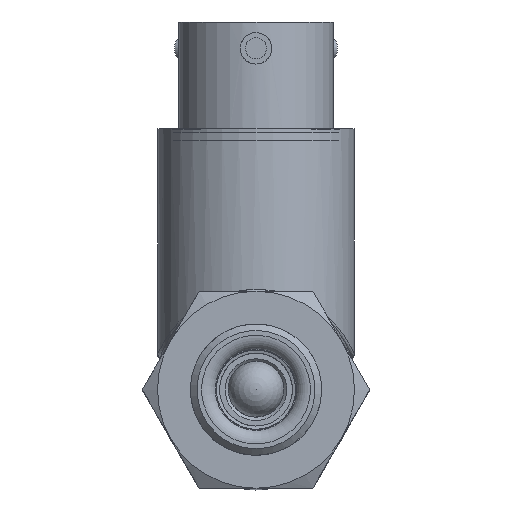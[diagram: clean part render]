
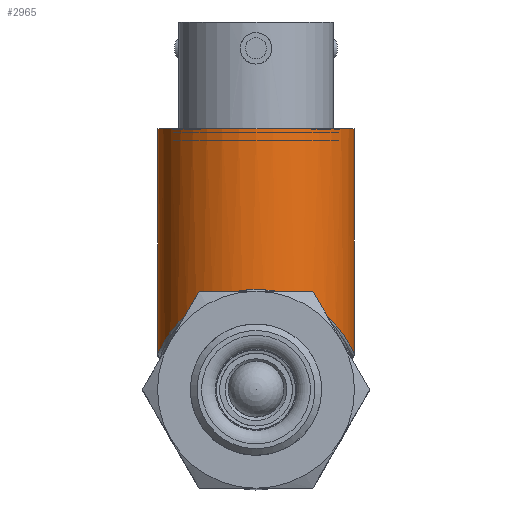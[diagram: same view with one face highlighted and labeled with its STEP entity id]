
A CAD part, top view. The second image highlights one B-rep face of the part: STEP entity #2965.
In plain terms, the highlighted cylindrical face has radius 9.525 mm (diameter 19.05 mm), a full revolution.
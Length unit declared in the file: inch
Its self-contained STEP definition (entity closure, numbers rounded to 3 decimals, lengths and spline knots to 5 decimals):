
#70=B_SPLINE_CURVE_WITH_KNOTS('',3,(#6634,#6635,#6636,#6637,#6638,#6639,
#6640,#6641,#6642,#6643,#6644,#6645,#6646,#6647,#6648,#6649,#6650,#6651,
#6652,#6653,#6654,#6655,#6656,#6657,#6658,#6659,#6660,#6661,#6662,#6663,
#6664),.UNSPECIFIED.,.F.,.F.,(4,1,1,1,1,1,1,1,1,1,1,1,1,1,1,1,1,1,1,1,1,
1,1,1,1,1,1,1,4),(-9.63701,-9.40756,-9.17811,
-8.7192,-8.41326,-8.26029,-8.10733,
-8.03084,-7.95436,-7.80139,-7.49545,
-7.18952,-6.88358,-6.57764,-6.27171,
-5.96577,-5.65983,-5.35389,-5.04796,-4.89499,
-4.81851,-4.74202,-4.58905,-4.43608,
-4.3596,-4.13015,-3.67124,-3.44179,
-3.21234),.UNSPECIFIED.);
#337=FACE_OUTER_BOUND('',#557,.T.);
#557=EDGE_LOOP('',(#2078,#2079,#2080,#2081));
#769=LINE('',#6714,#905);
#905=VECTOR('',#3925,0.375);
#1080=CIRCLE('',#3375,0.375);
#1288=VERTEX_POINT('',#6600);
#1292=VERTEX_POINT('',#6713);
#1580=EDGE_CURVE('',#1288,#1288,#70,.T.);
#1583=EDGE_CURVE('',#1292,#1288,#769,.T.);
#1584=EDGE_CURVE('',#1292,#1292,#1080,.T.);
#2078=ORIENTED_EDGE('',*,*,#1583,.F.);
#2079=ORIENTED_EDGE('',*,*,#1584,.F.);
#2080=ORIENTED_EDGE('',*,*,#1583,.T.);
#2081=ORIENTED_EDGE('',*,*,#1580,.F.);
#2663=CYLINDRICAL_SURFACE('',#3374,0.375);
#2965=ADVANCED_FACE('',(#337),#2663,.T.);
#3374=AXIS2_PLACEMENT_3D('',#6712,#3923,#3924);
#3375=AXIS2_PLACEMENT_3D('',#6715,#3926,#3927);
#3923=DIRECTION('center_axis',(0.,1.,0.));
#3924=DIRECTION('ref_axis',(0.,0.,1.));
#3925=DIRECTION('',(0.,-1.,0.));
#3926=DIRECTION('center_axis',(0.,1.,0.));
#3927=DIRECTION('ref_axis',(0.,0.,1.));
#6600=CARTESIAN_POINT('',(0.,0.3875,-1.2));
#6634=CARTESIAN_POINT('Ctrl Pts',(0.,0.3875,
-1.2));
#6635=CARTESIAN_POINT('Ctrl Pts',(0.03115,0.3875,
-1.2));
#6636=CARTESIAN_POINT('Ctrl Pts',(0.09334,0.38037,
-1.19214));
#6637=CARTESIAN_POINT('Ctrl Pts',(0.20461,0.34111,-1.14842));
#6638=CARTESIAN_POINT('Ctrl Pts',(0.29321,0.27238,-1.07028));
#6639=CARTESIAN_POINT('Ctrl Pts',(0.3437,0.20218,-0.98172));
#6640=CARTESIAN_POINT('Ctrl Pts',(0.36561,0.15994,-0.91434));
#6641=CARTESIAN_POINT('Ctrl Pts',(0.37367,0.14038,-0.86654));
#6642=CARTESIAN_POINT('Ctrl Pts',(0.37544,0.13579,-0.825));
#6643=CARTESIAN_POINT('Ctrl Pts',(0.37368,0.14033,-0.78338));
#6644=CARTESIAN_POINT('Ctrl Pts',(0.36229,0.16812,-0.71673));
#6645=CARTESIAN_POINT('Ctrl Pts',(0.32972,0.22602,-0.63722));
#6646=CARTESIAN_POINT('Ctrl Pts',(0.26718,0.29408,-0.55479));
#6647=CARTESIAN_POINT('Ctrl Pts',(0.17866,0.35267,-0.4887));
#6648=CARTESIAN_POINT('Ctrl Pts',(0.06404,0.38892,
-0.44839));
#6649=CARTESIAN_POINT('Ctrl Pts',(-0.06403,0.38897,
-0.44835));
#6650=CARTESIAN_POINT('Ctrl Pts',(-0.1787,0.35264,
-0.48871));
#6651=CARTESIAN_POINT('Ctrl Pts',(-0.26715,0.29415,
-0.55479));
#6652=CARTESIAN_POINT('Ctrl Pts',(-0.32975,0.22598,
-0.63725));
#6653=CARTESIAN_POINT('Ctrl Pts',(-0.36229,0.1681,
-0.71673));
#6654=CARTESIAN_POINT('Ctrl Pts',(-0.37368,0.14034,
-0.78342));
#6655=CARTESIAN_POINT('Ctrl Pts',(-0.37544,0.1358,
-0.82503));
#6656=CARTESIAN_POINT('Ctrl Pts',(-0.37367,0.14038,
-0.86657));
#6657=CARTESIAN_POINT('Ctrl Pts',(-0.36558,0.15999,
-0.91435));
#6658=CARTESIAN_POINT('Ctrl Pts',(-0.35196,0.18625,
-0.95644));
#6659=CARTESIAN_POINT('Ctrl Pts',(-0.33101,0.21986,
-1.00392));
#6660=CARTESIAN_POINT('Ctrl Pts',(-0.28645,0.27754,
-1.07622));
#6661=CARTESIAN_POINT('Ctrl Pts',(-0.20458,0.34119,
-1.14847));
#6662=CARTESIAN_POINT('Ctrl Pts',(-0.09335,0.38033,
-1.1921));
#6663=CARTESIAN_POINT('Ctrl Pts',(-0.03115,0.3875,
-1.2));
#6664=CARTESIAN_POINT('Ctrl Pts',(0.,0.3875,
-1.2));
#6712=CARTESIAN_POINT('Origin',(0.,0.47,
-0.825));
#6713=CARTESIAN_POINT('',(0.,1.,-1.2));
#6714=CARTESIAN_POINT('',(0.,0.47,-1.2));
#6715=CARTESIAN_POINT('Origin',(0.,1.,
-0.825));
